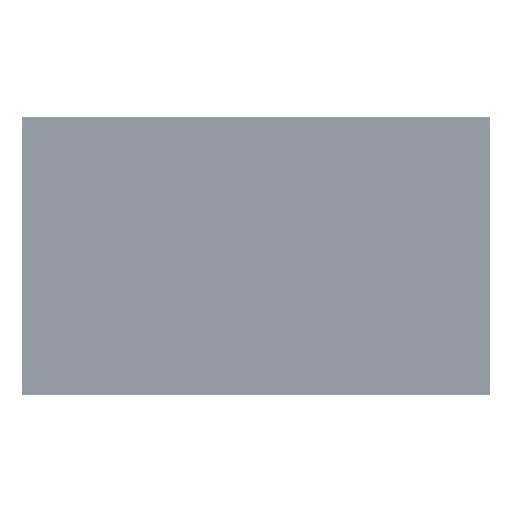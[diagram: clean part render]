
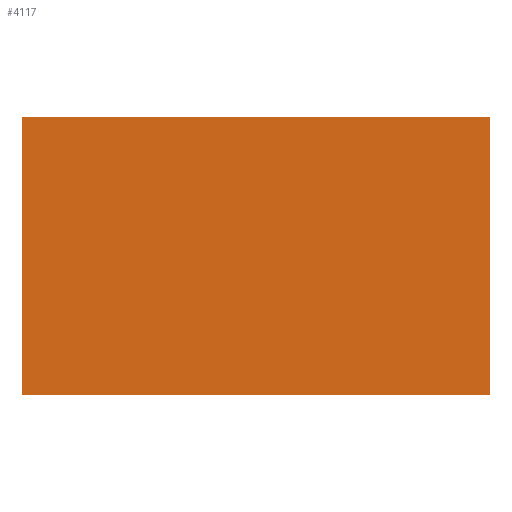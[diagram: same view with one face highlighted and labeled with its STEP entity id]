
A CAD part, left-side view. The second image highlights one B-rep face of the part: STEP entity #4117.
In plain terms, the highlighted planar face has unit normal (-1, 0, 0).
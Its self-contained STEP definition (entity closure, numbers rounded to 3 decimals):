
#4024 = VERTEX_POINT ( 'NONE', #9855 ) ;
#4025 = ORIENTED_EDGE ( 'NONE', *, *, #4026, .F. ) ;
#4026 = EDGE_CURVE ( 'NONE', #4027, #4024, #9854, .T. ) ;
#4027 = VERTEX_POINT ( 'NONE', #9850 ) ;
#4028 = ORIENTED_EDGE ( 'NONE', *, *, #4029, .F. ) ;
#4029 = EDGE_CURVE ( 'NONE', #4112, #4027, #9849, .T. ) ;
#4112 = VERTEX_POINT ( 'NONE', #9843 ) ;
#4113 = ORIENTED_EDGE ( 'NONE', *, *, #4114, .T. ) ;
#4114 = EDGE_CURVE ( 'NONE', #4112, #4121, #9842, .T. ) ;
#4117 = ADVANCED_FACE ( 'NONE', ( #9878 ), #9877, .F. ) ;
#4118 = EDGE_LOOP ( 'NONE', ( #4119, #4025, #4028, #4113 ) ) ;
#4119 = ORIENTED_EDGE ( 'NONE', *, *, #4120, .T. ) ;
#4120 = EDGE_CURVE ( 'NONE', #4121, #4024, #9872, .T. ) ;
#4121 = VERTEX_POINT ( 'NONE', #9868 ) ;
#9839 = DIRECTION ( 'NONE',  ( 0., 0., -1. ) ) ;
#9840 = VECTOR ( 'NONE', #9839, 1000. ) ;
#9841 = CARTESIAN_POINT ( 'NONE',  ( 64.491, 227.021, 50. ) ) ;
#9842 = LINE ( 'NONE', #9841, #9840 ) ;
#9843 = CARTESIAN_POINT ( 'NONE',  ( 64.491, 227.021, 50. ) ) ;
#9846 = DIRECTION ( 'NONE',  ( 0., -1., 0. ) ) ;
#9847 = VECTOR ( 'NONE', #9846, 1000. ) ;
#9848 = CARTESIAN_POINT ( 'NONE',  ( 64.491, 143.021, 50. ) ) ;
#9849 = LINE ( 'NONE', #9848, #9847 ) ;
#9850 = CARTESIAN_POINT ( 'NONE',  ( 64.491, 143.021, 50. ) ) ;
#9851 = DIRECTION ( 'NONE',  ( 0., 0., -1. ) ) ;
#9852 = VECTOR ( 'NONE', #9851, 1000. ) ;
#9853 = CARTESIAN_POINT ( 'NONE',  ( 64.491, 143.021, 50. ) ) ;
#9854 = LINE ( 'NONE', #9853, #9852 ) ;
#9855 = CARTESIAN_POINT ( 'NONE',  ( 64.491, 143.021, 0. ) ) ;
#9868 = CARTESIAN_POINT ( 'NONE',  ( 64.491, 227.021, 0. ) ) ;
#9869 = DIRECTION ( 'NONE',  ( 0., -1., 0. ) ) ;
#9870 = VECTOR ( 'NONE', #9869, 1000. ) ;
#9871 = CARTESIAN_POINT ( 'NONE',  ( 64.491, 143.021, 0. ) ) ;
#9872 = LINE ( 'NONE', #9871, #9870 ) ;
#9873 = DIRECTION ( 'NONE',  ( 0., 0., -1. ) ) ;
#9874 = DIRECTION ( 'NONE',  ( 1., 0., 0. ) ) ;
#9875 = CARTESIAN_POINT ( 'NONE',  ( 64.491, 143.021, 50. ) ) ;
#9876 = AXIS2_PLACEMENT_3D ( 'NONE', #9875, #9874, #9873 ) ;
#9877 = PLANE ( 'NONE',  #9876 ) ;
#9878 = FACE_OUTER_BOUND ( 'NONE', #4118, .T. ) ;
